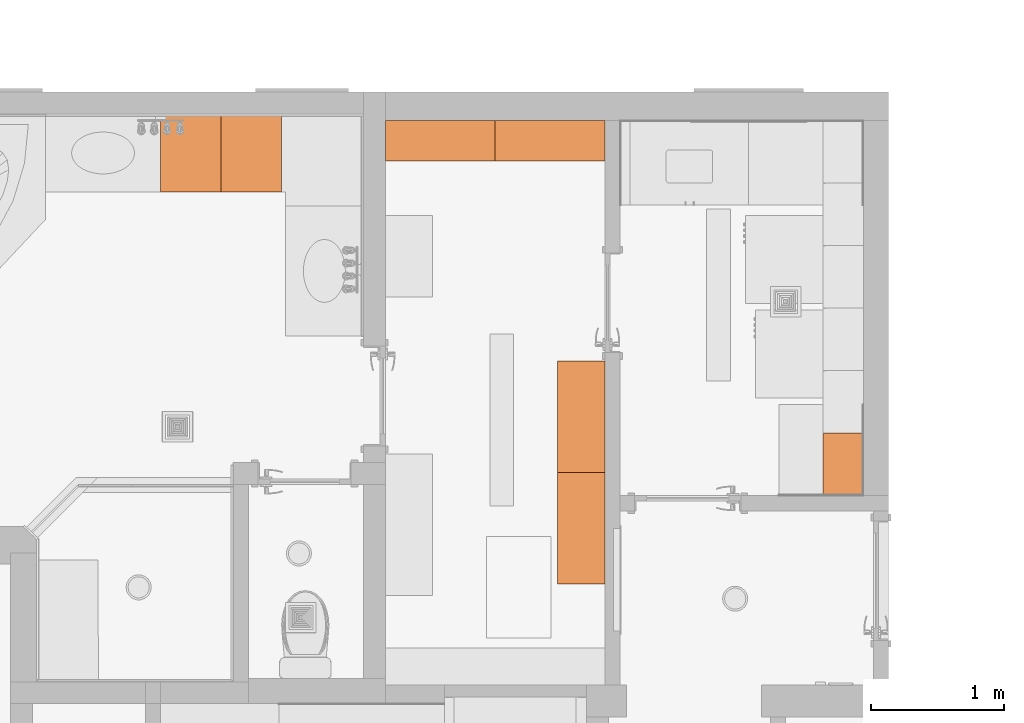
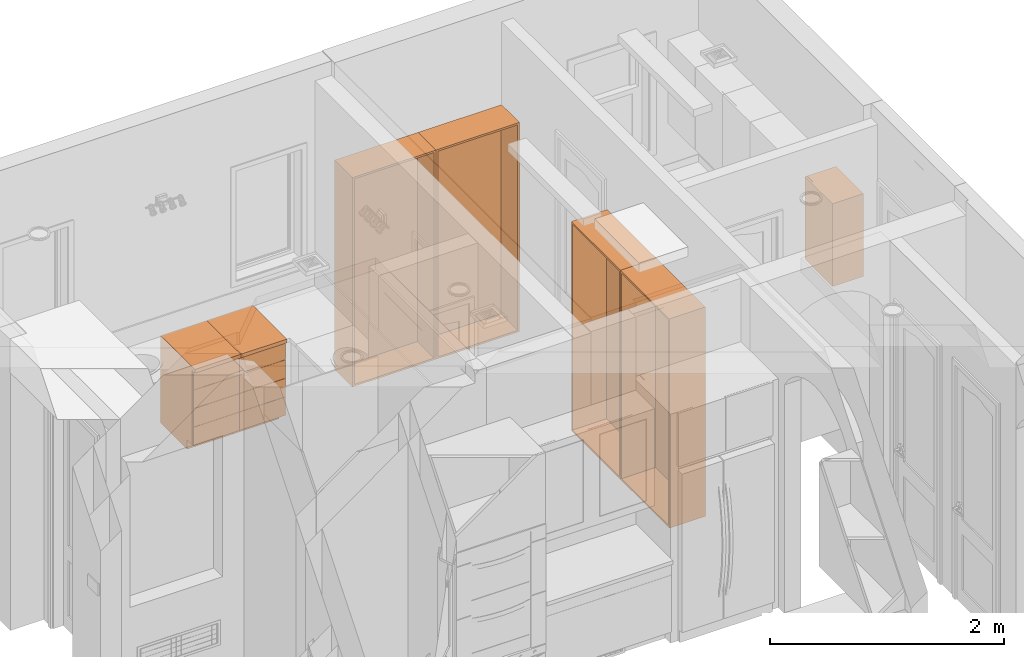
# One storey, part 57 of 77: 7 proxies.
"""IFC2X3 building model written with IfcOpenShell, lengths in inches."""

from ifc_helpers import new_model, entity, si_unit, converted_unit, derived_unit, money_unit, direction, frame, origin_with_axes, place, context, subcontext, project, spatial, faceted_brep, source, transform, mapped, type_object, element, save


model = new_model("IFC2X3")

# Units and contexts
model_context = context("Model", 3, precision=0.000393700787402, world=origin_with_axes(), true_north=direction((0.0, 1.0)))
body_context = subcontext(model_context, "Body", "Model", "MODEL_VIEW")
ifc_project = project(units=[converted_unit("LENGTHUNIT", "INCH", entity("IfcPositiveLengthMeasure", 0.0254), si_unit("LENGTHUNIT", "METRE"), dimensions=[1, 0, 0, 0, 0, 0, 0]), converted_unit("AREAUNIT", "SQUARE_FOOT", entity("IfcPositiveLengthMeasure", 0.09290304), si_unit("AREAUNIT", "SQUARE_METRE"), dimensions=[2, 0, 0, 0, 0, 0, 0]), si_unit("PLANEANGLEUNIT", "RADIAN"), si_unit("SOLIDANGLEUNIT", "STERADIAN"), money_unit("USD"), converted_unit("TIMEUNIT", "Year", entity("IfcTimeMeasure", 31556926.0), si_unit("TIMEUNIT", "SECOND"), dimensions=[0, 0, 1, 0, 0, 0, 0]), si_unit("MASSUNIT", "GRAM", prefix="KILO"), si_unit("THERMODYNAMICTEMPERATUREUNIT", "DEGREE_CELSIUS"), si_unit("LUMINOUSINTENSITYUNIT", "LUMEN"), si_unit("ENERGYUNIT", "JOULE", prefix="MEGA"), derived_unit("THERMALCONDUCTANCEUNIT", [(si_unit("POWERUNIT", "WATT"), 1), (si_unit("LENGTHUNIT", "METRE"), -1), (si_unit("THERMODYNAMICTEMPERATUREUNIT", "KELVIN"), -1)]), derived_unit("SPECIFICHEATCAPACITYUNIT", [(si_unit("ENERGYUNIT", "JOULE"), 1), (si_unit("MASSUNIT", "GRAM", prefix="KILO"), -1), (si_unit("THERMODYNAMICTEMPERATUREUNIT", "KELVIN"), -1)]), derived_unit("MASSDENSITYUNIT", [(si_unit("MASSUNIT", "GRAM", prefix="KILO"), 1), (si_unit("VOLUMEUNIT", "CUBIC_METRE"), -1)])], contexts=[model_context])

# Site, building, storey
site_placement = place(None, origin_with_axes())
site = spatial("IfcSite", under=ifc_project, at=site_placement, Name="Site", CompositionType="ELEMENT")
building_placement = place(site_placement, origin_with_axes())
building = spatial("IfcBuilding", under=site, at=building_placement, Name="Building", CompositionType="ELEMENT")
storey_placement = place(building_placement, frame((0.0, 0.0, 127.952755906), z_axis=(0.0, 0.0, 1.0), x_axis=(1.0, 0.0, 0.0)))
storey = spatial("IfcBuildingStorey", under=building, at=storey_placement, Name="Second Floor", CompositionType="ELEMENT", Elevation=127.953)

# Proxies
building_element_proxy_type_1 = type_object("IfcBuildingElementProxyType", Name="Standing Cabinet Block 25", PredefinedType="NOTDEFINED")
shared_shape_1 = source(origin_with_axes(), body_context, "Body", "Brep", [
    faceted_brep([(0.75, -12.0078740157, 0.0), (31.7303149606, -12.0078740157, 0.0), (31.7303149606, -12.0078740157, 0.75), (0.75, -12.0078740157, 0.75), (0.75, 0.0, 0.0), (31.7303149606, 0.0, 0.0), (31.7303149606, 0.0, 0.75), (0.75, 0.0, 0.75)], [[[0, 1, 2, 3]], [[0, 4, 5, 1]], [[1, 5, 6, 2]], [[3, 2, 6, 7]], [[4, 0, 3, 7]], [[5, 4, 7, 6]]]),
    faceted_brep([(0.75, -12.0078740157, 85.2736220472), (31.7303149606, -12.0078740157, 85.2736220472), (31.7303149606, -12.0078740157, 86.0236220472), (0.75, -12.0078740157, 86.0236220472), (0.75, 0.0, 85.2736220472), (31.7303149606, 0.0, 85.2736220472), (31.7303149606, 0.0, 86.0236220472), (0.75, 0.0, 86.0236220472)], [[[0, 1, 2, 3]], [[0, 4, 5, 1]], [[1, 5, 6, 2]], [[3, 2, 6, 7]], [[4, 0, 3, 7]], [[5, 4, 7, 6]]]),
    faceted_brep([(0.0, 0.0, 0.0), (0.0, -12.0078740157, 0.0), (0.0, -12.0078740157, 86.0236220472), (0.0, 0.0, 86.0236220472), (0.75, 0.0, 0.0), (0.75, -12.0078740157, 0.0), (0.75, -12.0078740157, 86.0236220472), (0.75, 0.0, 86.0236220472)], [[[0, 1, 2, 3]], [[0, 4, 5, 1]], [[1, 5, 6, 2]], [[3, 2, 6, 7]], [[4, 0, 3, 7]], [[5, 4, 7, 6]]]),
    faceted_brep([(32.4803149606, -12.0078740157, 0.0), (32.4803149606, 0.0, 0.0), (32.4803149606, 0.0, 86.0236220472), (32.4803149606, -12.0078740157, 86.0236220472), (31.7303149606, -12.0078740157, 0.0), (31.7303149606, 0.0, 0.0), (31.7303149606, 0.0, 86.0236220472), (31.7303149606, -12.0078740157, 86.0236220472)], [[[0, 1, 2, 3]], [[0, 4, 5, 1]], [[1, 5, 6, 2]], [[3, 2, 6, 7]], [[4, 0, 3, 7]], [[5, 4, 7, 6]]]),
    faceted_brep([(31.7303149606, -0.375, 0.75), (0.75, -0.375, 0.75), (0.75, -0.375, 85.2736220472), (31.7303149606, -0.375, 85.2736220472), (31.7303149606, -0.75, 0.75), (0.75, -0.75, 0.75), (0.75, -0.75, 85.2736220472), (31.7303149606, -0.75, 85.2736220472)], [[[0, 1, 2, 3]], [[0, 4, 5, 1]], [[1, 5, 6, 2]], [[3, 2, 6, 7]], [[4, 0, 3, 7]], [[5, 4, 7, 6]]]),
])
for number, where, z_axis, x_axis, name in (
    (1, (610.469961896, 581.014426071, 0.0), (0.0, 0.0, 1.0), (1.0, 0.0, 0.0), "FU - 006"),
    (2, (577.989646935, 581.014426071, 0.0), (0.0, 0.0, 1.0), (1.0, 0.0, 0.0), "FU - 006"),
):
    element("IfcBuildingElementProxy", number, at=place(storey_placement, frame(where, z_axis=z_axis, x_axis=x_axis)), inside=storey, type_object=building_element_proxy_type_1, Name=name, context=body_context, shape_type="MappedRepresentation", body=[
        mapped(shared_shape_1, transform((0.0, 0.0, 0.0))),
    ])
building_element_proxy_type_2 = type_object("IfcBuildingElementProxyType", Name="Wall Cabinet Block 25", PredefinedType="NOTDEFINED")
shared_shape_2 = source(origin_with_axes(), body_context, "Body", "Brep", [
    faceted_brep([(-0.75, -11.25, 76.6525590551), (-0.75, -11.25, 77.4025590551), (-17.7539370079, -11.25, 77.4025590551), (-17.7539370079, -11.25, 76.6525590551), (-0.75, -0.75, 76.6525590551), (-0.75, -0.75, 77.4025590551), (-17.7539370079, -0.75, 77.4025590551), (-17.7539370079, -0.75, 76.6525590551)], [[[0, 1, 2, 3]], [[4, 5, 1, 0]], [[1, 5, 6, 2]], [[3, 2, 6, 7]], [[0, 3, 7, 4]], [[7, 6, 5, 4]]]),
    faceted_brep([(-0.0393700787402, -11.25, 60.0393700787), (-0.0393700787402, -12.0, 60.0393700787), (-18.4645669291, -12.0, 60.0393700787), (-18.4645669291, -11.25, 60.0393700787), (-0.0393700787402, -11.25, 94.0157480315), (-0.0393700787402, -12.0, 94.0157480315), (-18.4645669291, -12.0, 94.0157480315), (-18.4645669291, -11.25, 94.0157480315)], [[[0, 1, 2, 3]], [[4, 5, 1, 0]], [[1, 5, 6, 2]], [[3, 2, 6, 7]], [[0, 3, 7, 4]], [[7, 6, 5, 4]]]),
    faceted_brep([(-0.75, -11.25, 60.0), (-0.75, -11.25, 60.75), (-17.7539370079, -11.25, 60.75), (-17.7539370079, -11.25, 60.0), (-0.75, 0.0, 60.0), (-0.75, 0.0, 60.75), (-17.7539370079, 0.0, 60.75), (-17.7539370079, 0.0, 60.0)], [[[0, 1, 2, 3]], [[4, 5, 1, 0]], [[1, 5, 6, 2]], [[3, 2, 6, 7]], [[0, 3, 7, 4]], [[7, 6, 5, 4]]]),
    faceted_brep([(-0.75, -11.25, 93.3051181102), (-0.75, -11.25, 94.0551181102), (-17.7539370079, -11.25, 94.0551181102), (-17.7539370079, -11.25, 93.3051181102), (-0.75, 0.0, 93.3051181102), (-0.75, 0.0, 94.0551181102), (-17.7539370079, 0.0, 94.0551181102), (-17.7539370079, 0.0, 93.3051181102)], [[[0, 1, 2, 3]], [[4, 5, 1, 0]], [[1, 5, 6, 2]], [[3, 2, 6, 7]], [[0, 3, 7, 4]], [[7, 6, 5, 4]]]),
    faceted_brep([(0.0, 0.0, 60.0), (0.0, 0.0, 94.0551181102), (0.0, -11.25, 94.0551181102), (0.0, -11.25, 60.0), (-0.75, 0.0, 60.0), (-0.75, 0.0, 94.0551181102), (-0.75, -11.25, 94.0551181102), (-0.75, -11.25, 60.0)], [[[0, 1, 2, 3]], [[4, 5, 1, 0]], [[1, 5, 6, 2]], [[3, 2, 6, 7]], [[0, 3, 7, 4]], [[7, 6, 5, 4]]]),
    faceted_brep([(-18.5039370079, -11.25, 60.0), (-18.5039370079, -11.25, 94.0551181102), (-18.5039370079, 0.0, 94.0551181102), (-18.5039370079, 0.0, 60.0), (-17.7539370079, -11.25, 60.0), (-17.7539370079, -11.25, 94.0551181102), (-17.7539370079, 0.0, 94.0551181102), (-17.7539370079, 0.0, 60.0)], [[[0, 1, 2, 3]], [[4, 5, 1, 0]], [[1, 5, 6, 2]], [[3, 2, 6, 7]], [[0, 3, 7, 4]], [[7, 6, 5, 4]]]),
    faceted_brep([(-17.7539370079, -0.375, 60.75), (-17.7539370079, -0.375, 93.3051181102), (-0.75, -0.375, 93.3051181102), (-0.75, -0.375, 60.75), (-17.7539370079, -0.75, 60.75), (-17.7539370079, -0.75, 93.3051181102), (-0.75, -0.75, 93.3051181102), (-0.75, -0.75, 60.75)], [[[0, 1, 2, 3]], [[4, 5, 1, 0]], [[1, 5, 6, 2]], [[3, 2, 6, 7]], [[0, 3, 7, 4]], [[7, 6, 5, 4]]]),
])
proxy_placement = place(storey_placement, frame((719.519431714, 469.990804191, -4.09448818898), z_axis=(0.0, 0.0, 1.0), x_axis=(0.0, -1.0, 0.0)))
element("IfcBuildingElementProxy", 3, at=proxy_placement, inside=storey, type_object=building_element_proxy_type_2, Name="FU - 008", context=body_context, shape_type="MappedRepresentation", body=[
    mapped(shared_shape_2, transform((0.0, 0.0, 0.0))),
])
building_element_proxy_type_3 = type_object("IfcBuildingElementProxyType", Name="Base Cabinet Block 25", PredefinedType="NOTDEFINED")
shared_shape_3 = source(origin_with_axes(), body_context, "Body", "Brep", [
    faceted_brep([(0.0, -23.0472440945, 34.4488188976), (17.9133858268, -23.0472440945, 34.4488188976), (17.9133858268, -23.0472440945, 35.9488188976), (0.0, -23.0472440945, 35.9488188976), (0.0, 0.0, 34.4488188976), (17.9133858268, 0.0, 34.4488188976), (17.9133858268, 0.0, 35.9488188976), (0.0, 0.0, 35.9488188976)], [[[0, 1, 2, 3]], [[0, 4, 5, 1]], [[1, 5, 6, 2]], [[3, 2, 6, 7]], [[4, 0, 3, 7]], [[5, 4, 7, 6]]]),
    faceted_brep([(16.9665354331, -21.2972440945, 4.9468503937), (0.946850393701, -21.2972440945, 4.9468503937), (0.946850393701, -0.75, 4.9468503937), (16.9665354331, -0.75, 4.9468503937), (16.9665354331, -21.2972440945, 5.3405511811), (0.946850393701, -21.2972440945, 5.3405511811), (0.946850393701, -0.75, 5.3405511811), (16.9665354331, -0.75, 5.3405511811)], [[[0, 1, 2, 3]], [[1, 0, 4, 5]], [[2, 1, 5, 6]], [[3, 2, 6, 7]], [[0, 3, 7, 4]], [[5, 4, 7, 6]]]),
    faceted_brep([(1.7342519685, -21.2972440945, 5.3405511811), (0.946850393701, -21.2972440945, 5.3405511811), (0.946850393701, -0.75, 5.3405511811), (1.7342519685, -0.75, 5.3405511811), (1.7342519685, -21.2972440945, 11.4153543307), (0.946850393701, -21.2972440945, 11.4153543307), (0.946850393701, -0.75, 11.4153543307), (1.7342519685, -0.75, 11.4153543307)], [[[0, 1, 2, 3]], [[1, 0, 4, 5]], [[2, 1, 5, 6]], [[3, 2, 6, 7]], [[0, 3, 7, 4]], [[5, 4, 7, 6]]]),
    faceted_brep([(16.9665354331, -21.2972440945, 5.3405511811), (16.1791338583, -21.2972440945, 5.3405511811), (16.1791338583, -0.75, 5.3405511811), (16.9665354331, -0.75, 5.3405511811), (16.9665354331, -21.2972440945, 11.4153543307), (16.1791338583, -21.2972440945, 11.4153543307), (16.1791338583, -0.75, 11.4153543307), (16.9665354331, -0.75, 11.4153543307)], [[[0, 1, 2, 3]], [[1, 0, 4, 5]], [[2, 1, 5, 6]], [[3, 2, 6, 7]], [[0, 3, 7, 4]], [[5, 4, 7, 6]]]),
    faceted_brep([(16.1791338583, -1.3405511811, 5.3405511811), (1.7342519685, -1.3405511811, 5.3405511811), (1.7342519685, -0.946850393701, 5.3405511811), (16.1791338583, -0.946850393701, 5.3405511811), (16.1791338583, -1.3405511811, 11.4153543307), (1.7342519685, -1.3405511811, 11.4153543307), (1.7342519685, -0.946850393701, 11.4153543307), (16.1791338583, -0.946850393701, 11.4153543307)], [[[0, 1, 2, 3]], [[1, 0, 4, 5]], [[2, 1, 5, 6]], [[3, 2, 6, 7]], [[0, 3, 7, 4]], [[5, 4, 7, 6]]]),
    faceted_brep([(16.9665354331, -21.2972440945, 11.8090551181), (0.946850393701, -21.2972440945, 11.8090551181), (0.946850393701, -0.75, 11.8090551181), (16.9665354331, -0.75, 11.8090551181), (16.9665354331, -21.2972440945, 12.2027559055), (0.946850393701, -21.2972440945, 12.2027559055), (0.946850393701, -0.75, 12.2027559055), (16.9665354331, -0.75, 12.2027559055)], [[[0, 1, 2, 3]], [[1, 0, 4, 5]], [[2, 1, 5, 6]], [[3, 2, 6, 7]], [[0, 3, 7, 4]], [[5, 4, 7, 6]]]),
    faceted_brep([(1.7342519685, -21.2972440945, 12.2027559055), (0.946850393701, -21.2972440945, 12.2027559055), (0.946850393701, -0.75, 12.2027559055), (1.7342519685, -0.75, 12.2027559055), (1.7342519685, -21.2972440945, 19.0275590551), (0.946850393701, -21.2972440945, 19.0275590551), (0.946850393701, -0.75, 19.0275590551), (1.7342519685, -0.75, 19.0275590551)], [[[0, 1, 2, 3]], [[1, 0, 4, 5]], [[2, 1, 5, 6]], [[3, 2, 6, 7]], [[0, 3, 7, 4]], [[5, 4, 7, 6]]]),
    faceted_brep([(16.9665354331, -21.2972440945, 12.2027559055), (16.1791338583, -21.2972440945, 12.2027559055), (16.1791338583, -0.75, 12.2027559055), (16.9665354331, -0.75, 12.2027559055), (16.9665354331, -21.2972440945, 19.0275590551), (16.1791338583, -21.2972440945, 19.0275590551), (16.1791338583, -0.75, 19.0275590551), (16.9665354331, -0.75, 19.0275590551)], [[[0, 1, 2, 3]], [[1, 0, 4, 5]], [[2, 1, 5, 6]], [[3, 2, 6, 7]], [[0, 3, 7, 4]], [[5, 4, 7, 6]]]),
    faceted_brep([(16.1791338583, -1.3405511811, 12.2027559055), (1.7342519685, -1.3405511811, 12.2027559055), (1.7342519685, -0.946850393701, 12.2027559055), (16.1791338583, -0.946850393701, 12.2027559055), (16.1791338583, -1.3405511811, 19.0275590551), (1.7342519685, -1.3405511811, 19.0275590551), (1.7342519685, -0.946850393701, 19.0275590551), (16.1791338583, -0.946850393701, 19.0275590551)], [[[0, 1, 2, 3]], [[1, 0, 4, 5]], [[2, 1, 5, 6]], [[3, 2, 6, 7]], [[0, 3, 7, 4]], [[5, 4, 7, 6]]]),
    faceted_brep([(16.9665354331, -21.2972440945, 19.4212598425), (0.946850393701, -21.2972440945, 19.4212598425), (0.946850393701, -0.75, 19.4212598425), (16.9665354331, -0.75, 19.4212598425), (16.9665354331, -21.2972440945, 19.8149606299), (0.946850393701, -21.2972440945, 19.8149606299), (0.946850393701, -0.75, 19.8149606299), (16.9665354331, -0.75, 19.8149606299)], [[[0, 1, 2, 3]], [[1, 0, 4, 5]], [[2, 1, 5, 6]], [[3, 2, 6, 7]], [[0, 3, 7, 4]], [[5, 4, 7, 6]]]),
    faceted_brep([(1.7342519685, -21.2972440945, 19.8149606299), (0.946850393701, -21.2972440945, 19.8149606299), (0.946850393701, -0.75, 19.8149606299), (1.7342519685, -0.75, 19.8149606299), (1.7342519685, -21.2972440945, 26.6397637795), (0.946850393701, -21.2972440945, 26.6397637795), (0.946850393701, -0.75, 26.6397637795), (1.7342519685, -0.75, 26.6397637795)], [[[0, 1, 2, 3]], [[1, 0, 4, 5]], [[2, 1, 5, 6]], [[3, 2, 6, 7]], [[0, 3, 7, 4]], [[5, 4, 7, 6]]]),
    faceted_brep([(16.9665354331, -21.2972440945, 19.8149606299), (16.1791338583, -21.2972440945, 19.8149606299), (16.1791338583, -0.75, 19.8149606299), (16.9665354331, -0.75, 19.8149606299), (16.9665354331, -21.2972440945, 26.6397637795), (16.1791338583, -21.2972440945, 26.6397637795), (16.1791338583, -0.75, 26.6397637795), (16.9665354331, -0.75, 26.6397637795)], [[[0, 1, 2, 3]], [[1, 0, 4, 5]], [[2, 1, 5, 6]], [[3, 2, 6, 7]], [[0, 3, 7, 4]], [[5, 4, 7, 6]]]),
    faceted_brep([(16.1791338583, -1.3405511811, 19.8149606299), (1.7342519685, -1.3405511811, 19.8149606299), (1.7342519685, -0.946850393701, 19.8149606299), (16.1791338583, -0.946850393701, 19.8149606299), (16.1791338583, -1.3405511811, 26.6397637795), (1.7342519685, -1.3405511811, 26.6397637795), (1.7342519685, -0.946850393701, 26.6397637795), (16.1791338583, -0.946850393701, 26.6397637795)], [[[0, 1, 2, 3]], [[1, 0, 4, 5]], [[2, 1, 5, 6]], [[3, 2, 6, 7]], [[0, 3, 7, 4]], [[5, 4, 7, 6]]]),
    faceted_brep([(16.9665354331, -21.2972440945, 27.0334645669), (0.946850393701, -21.2972440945, 27.0334645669), (0.946850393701, -0.75, 27.0334645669), (16.9665354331, -0.75, 27.0334645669), (16.9665354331, -21.2972440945, 27.4271653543), (0.946850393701, -21.2972440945, 27.4271653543), (0.946850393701, -0.75, 27.4271653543), (16.9665354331, -0.75, 27.4271653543)], [[[0, 1, 2, 3]], [[1, 0, 4, 5]], [[2, 1, 5, 6]], [[3, 2, 6, 7]], [[0, 3, 7, 4]], [[5, 4, 7, 6]]]),
    faceted_brep([(1.7342519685, -21.2972440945, 27.4271653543), (0.946850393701, -21.2972440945, 27.4271653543), (0.946850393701, -0.75, 27.4271653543), (1.7342519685, -0.75, 27.4271653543), (1.7342519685, -21.2972440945, 33.5019685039), (0.946850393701, -21.2972440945, 33.5019685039), (0.946850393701, -0.75, 33.5019685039), (1.7342519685, -0.75, 33.5019685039)], [[[0, 1, 2, 3]], [[1, 0, 4, 5]], [[2, 1, 5, 6]], [[3, 2, 6, 7]], [[0, 3, 7, 4]], [[5, 4, 7, 6]]]),
    faceted_brep([(16.9665354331, -21.2972440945, 27.4271653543), (16.1791338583, -21.2972440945, 27.4271653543), (16.1791338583, -0.75, 27.4271653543), (16.9665354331, -0.75, 27.4271653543), (16.9665354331, -21.2972440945, 33.5019685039), (16.1791338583, -21.2972440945, 33.5019685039), (16.1791338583, -0.75, 33.5019685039), (16.9665354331, -0.75, 33.5019685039)], [[[0, 1, 2, 3]], [[1, 0, 4, 5]], [[2, 1, 5, 6]], [[3, 2, 6, 7]], [[0, 3, 7, 4]], [[5, 4, 7, 6]]]),
    faceted_brep([(16.1791338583, -1.3405511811, 27.4271653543), (1.7342519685, -1.3405511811, 27.4271653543), (1.7342519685, -0.946850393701, 27.4271653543), (16.1791338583, -0.946850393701, 27.4271653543), (16.1791338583, -1.3405511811, 33.5019685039), (1.7342519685, -1.3405511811, 33.5019685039), (1.7342519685, -0.946850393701, 33.5019685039), (16.1791338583, -0.946850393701, 33.5019685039)], [[[0, 1, 2, 3]], [[1, 0, 4, 5]], [[2, 1, 5, 6]], [[3, 2, 6, 7]], [[0, 3, 7, 4]], [[5, 4, 7, 6]]]),
    faceted_brep([(0.0393700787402, -21.2972440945, 4.03937007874), (17.874015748, -21.2972440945, 4.03937007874), (17.874015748, -22.0472440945, 4.03937007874), (0.0393700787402, -22.0472440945, 4.03937007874), (0.0393700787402, -21.2972440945, 11.5728346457), (17.874015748, -21.2972440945, 11.5728346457), (17.874015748, -22.0472440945, 11.5728346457), (0.0393700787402, -22.0472440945, 11.5728346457)], [[[0, 1, 2, 3]], [[0, 4, 5, 1]], [[1, 5, 6, 2]], [[3, 2, 6, 7]], [[4, 0, 3, 7]], [[5, 4, 7, 6]]]),
    faceted_brep([(0.0393700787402, -21.2972440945, 11.6515748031), (17.874015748, -21.2972440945, 11.6515748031), (17.874015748, -22.0472440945, 11.6515748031), (0.0393700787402, -22.0472440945, 11.6515748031), (0.0393700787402, -21.2972440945, 19.1850393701), (17.874015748, -21.2972440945, 19.1850393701), (17.874015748, -22.0472440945, 19.1850393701), (0.0393700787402, -22.0472440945, 19.1850393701)], [[[0, 1, 2, 3]], [[0, 4, 5, 1]], [[1, 5, 6, 2]], [[3, 2, 6, 7]], [[4, 0, 3, 7]], [[5, 4, 7, 6]]]),
    faceted_brep([(0.0393700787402, -21.2972440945, 19.2637795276), (17.874015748, -21.2972440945, 19.2637795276), (17.874015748, -22.0472440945, 19.2637795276), (0.0393700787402, -22.0472440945, 19.2637795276), (0.0393700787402, -21.2972440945, 26.7972440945), (17.874015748, -21.2972440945, 26.7972440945), (17.874015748, -22.0472440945, 26.7972440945), (0.0393700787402, -22.0472440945, 26.7972440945)], [[[0, 1, 2, 3]], [[0, 4, 5, 1]], [[1, 5, 6, 2]], [[3, 2, 6, 7]], [[4, 0, 3, 7]], [[5, 4, 7, 6]]]),
    faceted_brep([(0.0393700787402, -21.2972440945, 26.875984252), (17.874015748, -21.2972440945, 26.875984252), (17.874015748, -22.0472440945, 26.875984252), (0.0393700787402, -22.0472440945, 26.875984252), (0.0393700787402, -21.2972440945, 34.4094488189), (17.874015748, -21.2972440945, 34.4094488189), (17.874015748, -22.0472440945, 34.4094488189), (0.0393700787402, -22.0472440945, 34.4094488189)], [[[0, 1, 2, 3]], [[0, 4, 5, 1]], [[1, 5, 6, 2]], [[3, 2, 6, 7]], [[4, 0, 3, 7]], [[5, 4, 7, 6]]]),
    faceted_brep([(0.75, -21.2972440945, 4.0), (17.1633858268, -21.2972440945, 4.0), (17.1633858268, -21.2972440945, 4.75), (0.75, -21.2972440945, 4.75), (0.75, 0.0, 4.0), (17.1633858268, 0.0, 4.0), (17.1633858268, 0.0, 4.75), (0.75, 0.0, 4.75)], [[[0, 1, 2, 3]], [[0, 4, 5, 1]], [[1, 5, 6, 2]], [[3, 2, 6, 7]], [[4, 0, 3, 7]], [[5, 4, 7, 6]]]),
    faceted_brep([(0.75, -21.2972440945, 33.6988188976), (0.75, -18.9350393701, 33.6988188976), (17.1633858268, -18.9350393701, 33.6988188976), (17.1633858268, -21.2972440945, 33.6988188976), (0.75, -21.2972440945, 34.4488188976), (0.75, -18.9350393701, 34.4488188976), (17.1633858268, -18.9350393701, 34.4488188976), (17.1633858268, -21.2972440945, 34.4488188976)], [[[0, 1, 2, 3]], [[0, 4, 5, 1]], [[1, 5, 6, 2]], [[3, 2, 6, 7]], [[4, 0, 3, 7]], [[5, 4, 7, 6]]]),
    faceted_brep([(17.1633858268, 0.0, 33.6988188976), (17.1633858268, -2.36220472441, 33.6988188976), (0.75, -2.36220472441, 33.6988188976), (0.75, 0.0, 33.6988188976), (17.1633858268, 0.0, 34.4488188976), (17.1633858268, -2.36220472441, 34.4488188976), (0.75, -2.36220472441, 34.4488188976), (0.75, 0.0, 34.4488188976)], [[[0, 1, 2, 3]], [[0, 4, 5, 1]], [[1, 5, 6, 2]], [[3, 2, 6, 7]], [[4, 0, 3, 7]], [[5, 4, 7, 6]]]),
    faceted_brep([(0.0, 0.0, 4.0), (0.0, -21.2972440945, 4.0), (0.0, -21.2972440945, 34.4488188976), (0.0, 0.0, 34.4488188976), (0.75, 0.0, 4.0), (0.75, -21.2972440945, 4.0), (0.75, -21.2972440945, 34.4488188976), (0.75, 0.0, 34.4488188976)], [[[0, 1, 2, 3]], [[0, 4, 5, 1]], [[1, 5, 6, 2]], [[3, 2, 6, 7]], [[4, 0, 3, 7]], [[5, 4, 7, 6]]]),
    faceted_brep([(17.9133858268, -21.2972440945, 4.0), (17.9133858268, 0.0, 4.0), (17.9133858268, 0.0, 34.4488188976), (17.9133858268, -21.2972440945, 34.4488188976), (17.1633858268, -21.2972440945, 4.0), (17.1633858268, 0.0, 4.0), (17.1633858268, 0.0, 34.4488188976), (17.1633858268, -21.2972440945, 34.4488188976)], [[[0, 1, 2, 3]], [[0, 4, 5, 1]], [[1, 5, 6, 2]], [[3, 2, 6, 7]], [[4, 0, 3, 7]], [[5, 4, 7, 6]]]),
    faceted_brep([(17.1633858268, -0.375, 4.75), (0.75, -0.375, 4.75), (0.75, -0.375, 33.6988188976), (17.1633858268, -0.375, 33.6988188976), (17.1633858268, -0.75, 4.75), (0.75, -0.75, 4.75), (0.75, -0.75, 33.6988188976), (17.1633858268, -0.75, 33.6988188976)], [[[0, 1, 2, 3]], [[0, 4, 5, 1]], [[1, 5, 6, 2]], [[3, 2, 6, 7]], [[4, 0, 3, 7]], [[5, 4, 7, 6]]]),
    faceted_brep([(0.0, -17.7972440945, 0.0), (17.9133858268, -17.7972440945, 0.0), (17.9133858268, -17.7972440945, 4.0), (0.0, -17.7972440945, 4.0), (0.0, 0.0, 0.0), (17.9133858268, 0.0, 0.0), (17.9133858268, 0.0, 4.0), (0.0, 0.0, 4.0)], [[[0, 1, 2, 3]], [[0, 4, 5, 1]], [[1, 5, 6, 2]], [[3, 2, 6, 7]], [[4, 0, 3, 7]], [[5, 4, 7, 6]]]),
])
for number, where, z_axis, x_axis, name in (
    (4, (511.450274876, 582.981927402, 0.0), (0.0, 0.0, 1.0), (1.0, 0.0, 0.0), "FU - 026"),
    (5, (529.363660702, 582.981927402, 0.0), (0.0, 0.0, 1.0), (1.0, 0.0, 0.0), "FU - 026"),
):
    element("IfcBuildingElementProxy", number, at=place(storey_placement, frame(where, z_axis=z_axis, x_axis=x_axis)), inside=storey, type_object=building_element_proxy_type_3, Name=name, context=body_context, shape_type="MappedRepresentation", body=[
        mapped(shared_shape_3, transform((0.0, 0.0, 0.0))),
    ])
shared_shape_4 = source(origin_with_axes(), body_context, "Body", "Brep", [
    faceted_brep([(0.75, -13.9763779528, 0.0), (32.3208661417, -13.9763779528, 0.0), (32.3208661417, -13.9763779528, 0.75), (0.75, -13.9763779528, 0.75), (0.75, 0.0, 0.0), (32.3208661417, 0.0, 0.0), (32.3208661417, 0.0, 0.75), (0.75, 0.0, 0.75)], [[[0, 1, 2, 3]], [[0, 4, 5, 1]], [[1, 5, 6, 2]], [[3, 2, 6, 7]], [[4, 0, 3, 7]], [[5, 4, 7, 6]]]),
    faceted_brep([(0.75, -13.9763779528, 85.2736220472), (32.3208661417, -13.9763779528, 85.2736220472), (32.3208661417, -13.9763779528, 86.0236220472), (0.75, -13.9763779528, 86.0236220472), (0.75, 0.0, 85.2736220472), (32.3208661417, 0.0, 85.2736220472), (32.3208661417, 0.0, 86.0236220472), (0.75, 0.0, 86.0236220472)], [[[0, 1, 2, 3]], [[0, 4, 5, 1]], [[1, 5, 6, 2]], [[3, 2, 6, 7]], [[4, 0, 3, 7]], [[5, 4, 7, 6]]]),
    faceted_brep([(0.0, 0.0, 0.0), (0.0, -13.9763779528, 0.0), (0.0, -13.9763779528, 86.0236220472), (0.0, 0.0, 86.0236220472), (0.75, 0.0, 0.0), (0.75, -13.9763779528, 0.0), (0.75, -13.9763779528, 86.0236220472), (0.75, 0.0, 86.0236220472)], [[[0, 1, 2, 3]], [[0, 4, 5, 1]], [[1, 5, 6, 2]], [[3, 2, 6, 7]], [[4, 0, 3, 7]], [[5, 4, 7, 6]]]),
    faceted_brep([(33.0708661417, -13.9763779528, 0.0), (33.0708661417, 0.0, 0.0), (33.0708661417, 0.0, 86.0236220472), (33.0708661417, -13.9763779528, 86.0236220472), (32.3208661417, -13.9763779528, 0.0), (32.3208661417, 0.0, 0.0), (32.3208661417, 0.0, 86.0236220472), (32.3208661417, -13.9763779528, 86.0236220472)], [[[0, 1, 2, 3]], [[0, 4, 5, 1]], [[1, 5, 6, 2]], [[3, 2, 6, 7]], [[4, 0, 3, 7]], [[5, 4, 7, 6]]]),
    faceted_brep([(32.3208661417, -0.375, 0.75), (0.75, -0.375, 0.75), (0.75, -0.375, 85.2736220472), (32.3208661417, -0.375, 85.2736220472), (32.3208661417, -0.75, 0.75), (0.75, -0.75, 0.75), (0.75, -0.75, 85.2736220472), (32.3208661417, -0.75, 85.2736220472)], [[[0, 1, 2, 3]], [[0, 4, 5, 1]], [[1, 5, 6, 2]], [[3, 2, 6, 7]], [[4, 0, 3, 7]], [[5, 4, 7, 6]]]),
])
for number, where, z_axis, x_axis, name in (
    (6, (642.96208434, 509.90717231, 0.0), (0.0, 0.0, 1.0), (0.0, -1.0, 0.0), "FU - 006"),
    (7, (642.96208434, 476.90717231, 0.0), (0.0, 0.0, 1.0), (0.0, -1.0, 0.0), "FU - 006"),
):
    element("IfcBuildingElementProxy", number, at=place(storey_placement, frame(where, z_axis=z_axis, x_axis=x_axis)), inside=storey, type_object=building_element_proxy_type_1, Name=name, context=body_context, shape_type="MappedRepresentation", body=[
        mapped(shared_shape_4, transform((0.0, 0.0, 0.0))),
    ])

save(model, "model.ifc")
